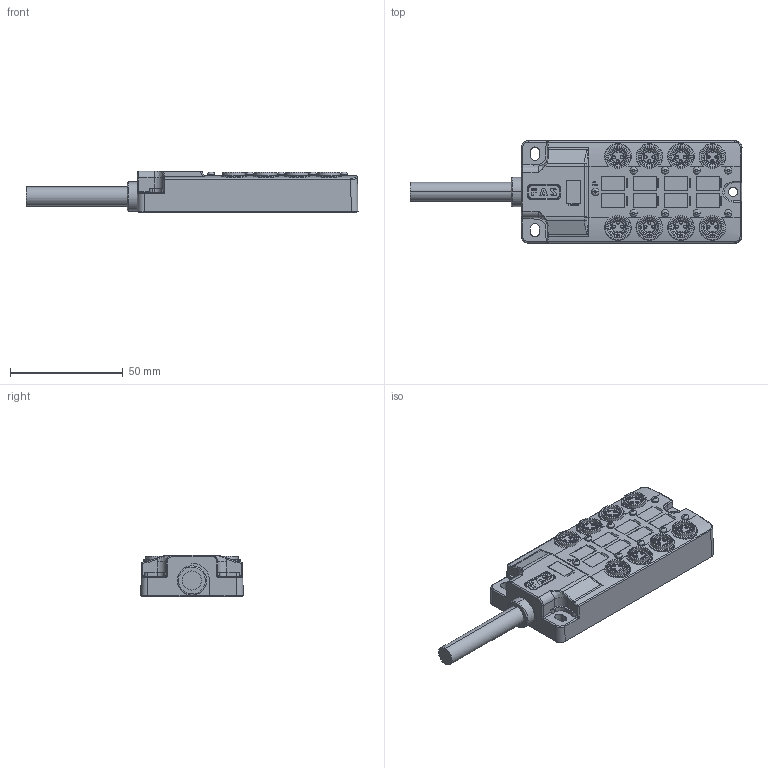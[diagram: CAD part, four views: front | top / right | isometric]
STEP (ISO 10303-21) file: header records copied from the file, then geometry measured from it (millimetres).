
FILE_DESCRIPTION (( 'STEP AP203' ), '1' );
FILE_NAME ('23P881(23P90¡¢23N881¡¢23N901).STEP', '2019-09-26T05:38:02', ( '' ), ( '' ), 'SwSTEP 2.0', 'SolidWorks 2016', '' );
FILE_SCHEMA (( 'CONFIG_CONTROL_DESIGN' ));
Products named in the file (1): 23P881(23P90﹜23N881﹜23N901)
Bounding box: 147.49 x 45.48 x 18.5 mm (x, y, z)
Volume: 73137.7 mm3; surface area: 22404.6 mm2
Topology: 1 solids, 1 shells, 1549 faces, 4336 edges, 2805 vertices
Faces by surface type: plane 681, cylinder 421, bspline 261, cone 186
Entity records: 86820 total; most frequent: CARTESIAN_POINT 49143, ORIENTED_EDGE 8672, DIRECTION 6851, EDGE_CURVE 4336, VERTEX_POINT 2805, VECTOR 2349, LINE 2349, AXIS2_PLACEMENT_3D 2251
